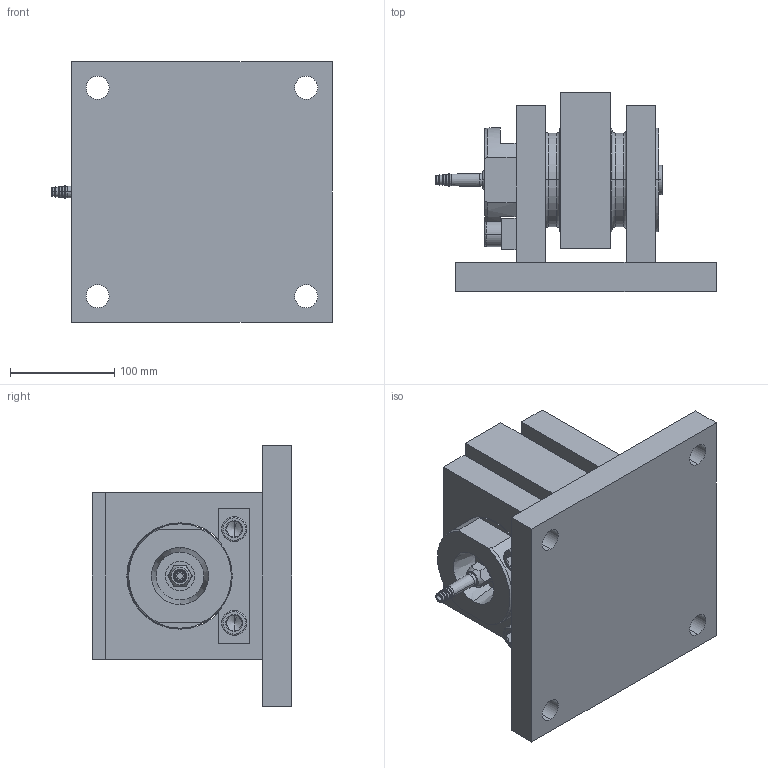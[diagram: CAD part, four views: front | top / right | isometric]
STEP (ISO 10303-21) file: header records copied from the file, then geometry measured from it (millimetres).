
FILE_DESCRIPTION (( 'STEP AP214' ), '1' );
FILE_NAME ('KOM-1 500 kN Module.STEP', '2021-03-15T10:06:09', ( '' ), ( '' ), 'SwSTEP 2.0', 'SolidWorks 2021', '' );
FILE_SCHEMA (( 'AUTOMOTIVE_DESIGN' ));
Length unit declared in the file: millimetre
Products named in the file (10): Pg9 - 1009.52 6_2_14; 4400266r0; 400267r0  Ok KOM-1  500 kN; M26x1.5 - Pg9 - 6369829; 600111r0  Låsbleck KOM-1 500 kN; M26x1.5 - Lock - 600490r1; 300072r0 Fäste KOM-1 500 kN; KOM-1 500 kN Module; KOSD-40  500 kN; M16x40
Assembly tree (10 placements, depth 3):
  KOM-1 500 kN Module
    300072r0 Fäste KOM-1 500 kN
    600111r0  Låsbleck KOM-1 500 kN
    400267r0  Ok KOM-1  500 kN
    M16x40  x2
    KOSD-40  500 kN
      4400266r0
      M26x1.5 - Lock - 600490r1
      M26x1.5 - Pg9 - 6369829
      Pg9 - 1009.52 6_2_14
Bounding box: 269 x 191 x 250 mm (x, y, z)
Volume: 4582470.4 mm3; surface area: 452287 mm2
Topology: 9 solids, 12 shells, 340 faces, 762 edges, 465 vertices
Faces by surface type: plane 115, cylinder 102, cone 85, bspline 20, torus 18
Entity records: 13849 total; most frequent: CARTESIAN_POINT 5986, DIRECTION 1495, ORIENTED_EDGE 1398, EDGE_CURVE 699, AXIS2_PLACEMENT_3D 618, VERTEX_POINT 438, EDGE_LOOP 369, CIRCLE 312
